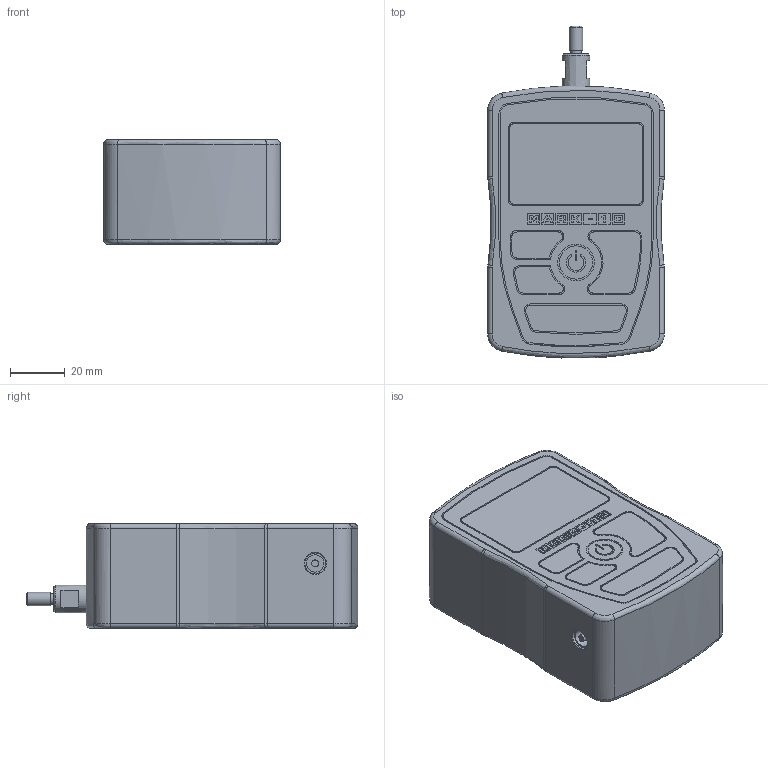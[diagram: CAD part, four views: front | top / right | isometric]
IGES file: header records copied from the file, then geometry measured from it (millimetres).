
Global section: file name: M2; native system: Autodesk RealDWG; preprocessor: Autodesk Translation Framework DWG producer (atf_dwg_producer); organization: unknown; date: 20240326.163438; units: inch
Bounding box: 64.26 x 120.8 x 38.1 mm (x, y, z)
Volume: 232543.4 mm3; surface area: 26907.9 mm2
Topology: 1 solids, 1 shells, 427 faces, 1090 edges, 721 vertices
Faces by surface type: bspline 427
